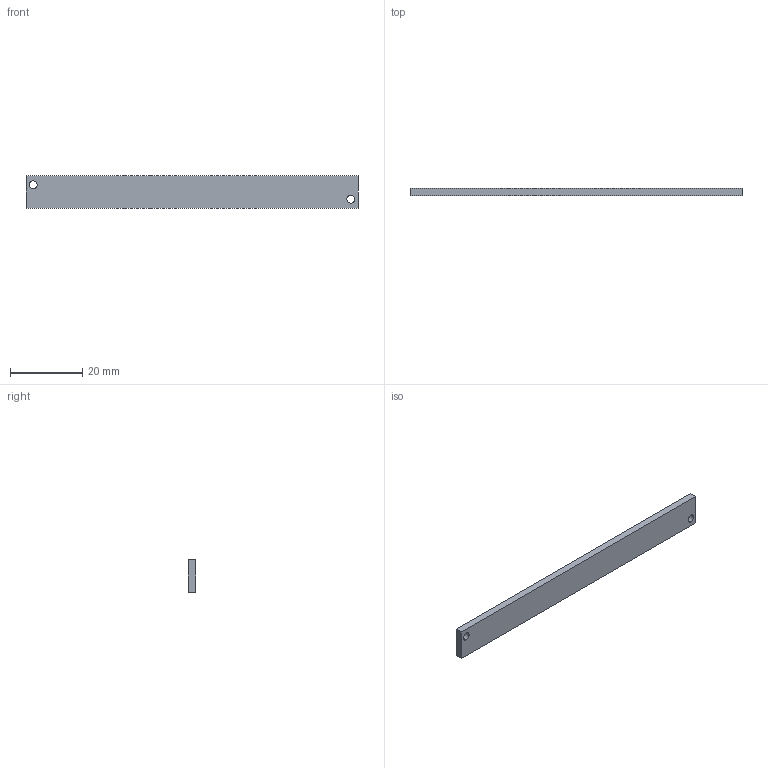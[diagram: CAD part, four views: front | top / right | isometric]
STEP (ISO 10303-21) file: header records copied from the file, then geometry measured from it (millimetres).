
FILE_DESCRIPTION (( 'STEP AP214' ), '1' );
FILE_NAME ('LBRM-00-080-1-DIFFUSER.STEP', '2021-11-05T07:04:53', ( '' ), ( '' ), 'SwSTEP 2.0', 'SolidWorks 2021', '' );
FILE_SCHEMA (( 'AUTOMOTIVE_DESIGN' ));
Length unit declared in the file: millimetre
Products named in the file (1): LBRM-00-080-1-DIFFUSER
Bounding box: 92 x 2 x 9 mm (x, y, z)
Volume: 1640.8 mm3; surface area: 2072.4 mm2
Topology: 1 solids, 1 shells, 10 faces, 24 edges, 16 vertices
Faces by surface type: plane 6, cylinder 4
Entity records: 404 total; most frequent: DIRECTION 54, CARTESIAN_POINT 51, ORIENTED_EDGE 48, EDGE_CURVE 24, AXIS2_PLACEMENT_3D 19, LINE 16, VERTEX_POINT 16, VECTOR 16
